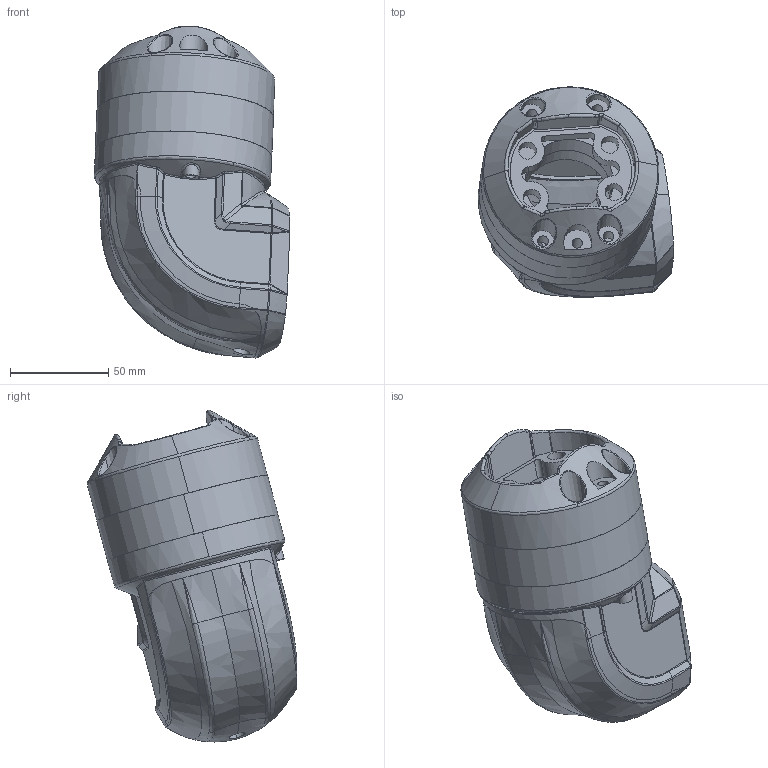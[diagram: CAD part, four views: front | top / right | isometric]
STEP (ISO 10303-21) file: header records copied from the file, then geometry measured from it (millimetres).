
FILE_DESCRIPTION (( 'STEP AP203' ), '1' );
FILE_NAME ('50-65-590.STEP', '2019-10-03T05:27:53', ( 'User' ), ( 'Microsoft' ), 'SwSTEP 2.0', 'SolidWorks 2017', '' );
FILE_SCHEMA (( 'CONFIG_CONTROL_DESIGN' ));
Length unit declared in the file: millimetre
Products named in the file (5): 50-唅蛌菁釱2; 50-階釱; 50裔赽; 50-65-590; 50-唅蛌菁釱3
Assembly tree (4 placements, depth 2):
  50-65-590
    50-唅蛌菁釱3
    50-唅蛌菁釱2
    50-階釱
    50裔赽
Bounding box: 99.61 x 106.93 x 169.11 mm (x, y, z)
Volume: 340603.5 mm3; surface area: 135708.3 mm2
Topology: 4 solids, 4 shells, 710 faces, 1816 edges, 1125 vertices
Faces by surface type: cylinder 268, bspline 241, plane 169, cone 28, torus 4
Entity records: 54107 total; most frequent: CARTESIAN_POINT 38282, ORIENTED_EDGE 3598, DIRECTION 2523, EDGE_CURVE 1799, VERTEX_POINT 1123, AXIS2_PLACEMENT_3D 970, EDGE_LOOP 784, FACE_OUTER_BOUND 710
